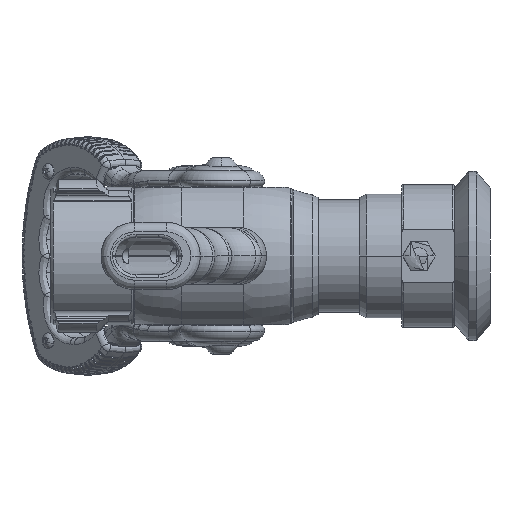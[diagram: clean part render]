
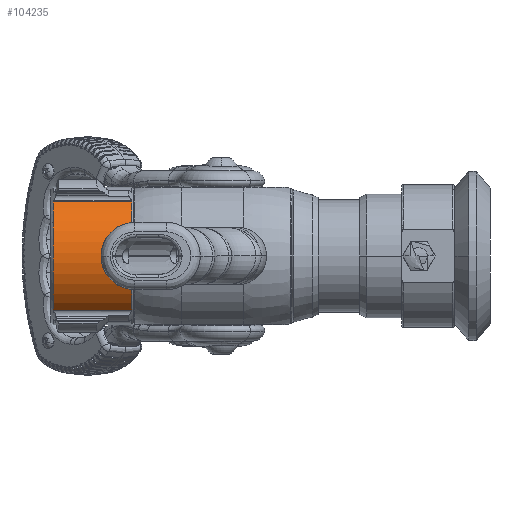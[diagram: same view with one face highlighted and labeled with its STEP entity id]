
A CAD part, front view. The second image highlights one B-rep face of the part: STEP entity #104235.
In plain terms, the highlighted cylindrical face has radius 34.925 mm (diameter 69.85 mm), a partial arc.
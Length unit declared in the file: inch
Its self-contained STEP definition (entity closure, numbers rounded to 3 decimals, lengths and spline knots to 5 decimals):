
#19502 = EDGE_CURVE ( 'NONE', #34554, #34587, #43662, .T. ) ;
#19569 = EDGE_CURVE ( 'NONE', #34576, #34584, #43721, .T. ) ;
#19570 = EDGE_CURVE ( 'NONE', #34555, #34600, #43723, .T. ) ;
#22512 = DIRECTION ( 'NONE',  ( 0., 0.866, -0.5 ) ) ;
#22516 = DIRECTION ( 'NONE',  ( -1., 0., 0. ) ) ;
#22520 = CARTESIAN_POINT ( 'NONE',  ( 0.65, 0., 0. ) ) ;
#30925 = AXIS2_PLACEMENT_3D ( 'NONE', #36139, #36140, #36141 ) ;
#30929 = AXIS2_PLACEMENT_3D ( 'NONE', #48519, #48520, #48521 ) ;
#34554 = VERTEX_POINT ( 'NONE', #115099 ) ;
#34555 = VERTEX_POINT ( 'NONE', #115100 ) ;
#34576 = VERTEX_POINT ( 'NONE', #115140 ) ;
#34584 = VERTEX_POINT ( 'NONE', #115155 ) ;
#34587 = VERTEX_POINT ( 'NONE', #115160 ) ;
#34600 = VERTEX_POINT ( 'NONE', #115186 ) ;
#36139 = CARTESIAN_POINT ( 'NONE',  ( 0.56, 0., 0. ) ) ;
#36140 = DIRECTION ( 'NONE',  ( -1., 0., 0. ) ) ;
#36141 = DIRECTION ( 'NONE',  ( 0., 0.866, -0.5 ) ) ;
#42304 = AXIS2_PLACEMENT_3D ( 'NONE', #58295, #58296, #58297 ) ;
#42308 = AXIS2_PLACEMENT_3D ( 'NONE', #58390, #58391, #58392 ) ;
#43662 = CIRCLE ( 'NONE', #30925, 1.375 ) ;
#43721 = CIRCLE ( 'NONE', #30929, 1.375 ) ;
#43723 = LINE ( 'NONE', #48505, #43724 ) ;
#43724 = VECTOR ( 'NONE', #48510, 39.37008 ) ;
#48505 = CARTESIAN_POINT ( 'NONE',  ( 0.65, -0.85742, -1.07492 ) ) ;
#48510 = DIRECTION ( 'NONE',  ( -1., 0., 0. ) ) ;
#48519 = CARTESIAN_POINT ( 'NONE',  ( -1., 0., 0. ) ) ;
#48520 = DIRECTION ( 'NONE',  ( 1., 0., 0. ) ) ;
#48521 = DIRECTION ( 'NONE',  ( 0., -0.866, 0.5 ) ) ;
#57072 = CIRCLE ( 'NONE', #42304, 1.375 ) ;
#57077 = LINE ( 'NONE', #58312, #57078 ) ;
#57078 = VECTOR ( 'NONE', #58313, 39.37008 ) ;
#57102 = CIRCLE ( 'NONE', #42308, 1.375 ) ;
#58295 = CARTESIAN_POINT ( 'NONE',  ( -1., 0., 0. ) ) ;
#58296 = DIRECTION ( 'NONE',  ( 1., 0., 0. ) ) ;
#58297 = DIRECTION ( 'NONE',  ( 0., -0.866, 0.5 ) ) ;
#58312 = CARTESIAN_POINT ( 'NONE',  ( 0.65, -0.85742, 1.07492 ) ) ;
#58313 = DIRECTION ( 'NONE',  ( -1., 0., 0. ) ) ;
#58390 = CARTESIAN_POINT ( 'NONE',  ( 0.56, 0., 0. ) ) ;
#58391 = DIRECTION ( 'NONE',  ( -1., 0., 0. ) ) ;
#58392 = DIRECTION ( 'NONE',  ( 0., 0.866, -0.5 ) ) ;
#62308 = ORIENTED_EDGE ( 'NONE', *, *, #105661, .T. ) ;
#62309 = ORIENTED_EDGE ( 'NONE', *, *, #19569, .T. ) ;
#62310 = ORIENTED_EDGE ( 'NONE', *, *, #105649, .T. ) ;
#62311 = ORIENTED_EDGE ( 'NONE', *, *, #19570, .F. ) ;
#62312 = ORIENTED_EDGE ( 'NONE', *, *, #105711, .T. ) ;
#62313 = ORIENTED_EDGE ( 'NONE', *, *, #19502, .T. ) ;
#98352 = AXIS2_PLACEMENT_3D ( 'NONE', #22520, #22516, #22512 ) ;
#101035 = FACE_OUTER_BOUND ( 'NONE', #110890, .T. ) ;
#101040 = CYLINDRICAL_SURFACE ( 'NONE', #98352, 1.375 ) ;
#104235 = ADVANCED_FACE ( 'NONE', ( #101035 ), #101040, .T. ) ;
#105649 = EDGE_CURVE ( 'NONE', #34584, #34600, #57072, .T. ) ;
#105661 = EDGE_CURVE ( 'NONE', #34587, #34576, #57077, .T. ) ;
#105711 = EDGE_CURVE ( 'NONE', #34555, #34554, #57102, .T. ) ;
#110890 = EDGE_LOOP ( 'NONE', ( #62308, #62309, #62310, #62311, #62312, #62313 ) ) ;
#115099 = CARTESIAN_POINT ( 'NONE',  ( 0.56, -1.19078, 0.6875 ) ) ;
#115100 = CARTESIAN_POINT ( 'NONE',  ( 0.56, -0.85742, -1.07492 ) ) ;
#115140 = CARTESIAN_POINT ( 'NONE',  ( -1., -0.85742, 1.07492 ) ) ;
#115155 = CARTESIAN_POINT ( 'NONE',  ( -1., -1.19078, 0.6875 ) ) ;
#115160 = CARTESIAN_POINT ( 'NONE',  ( 0.56, -0.85742, 1.07492 ) ) ;
#115186 = CARTESIAN_POINT ( 'NONE',  ( -1., -0.85742, -1.07492 ) ) ;
